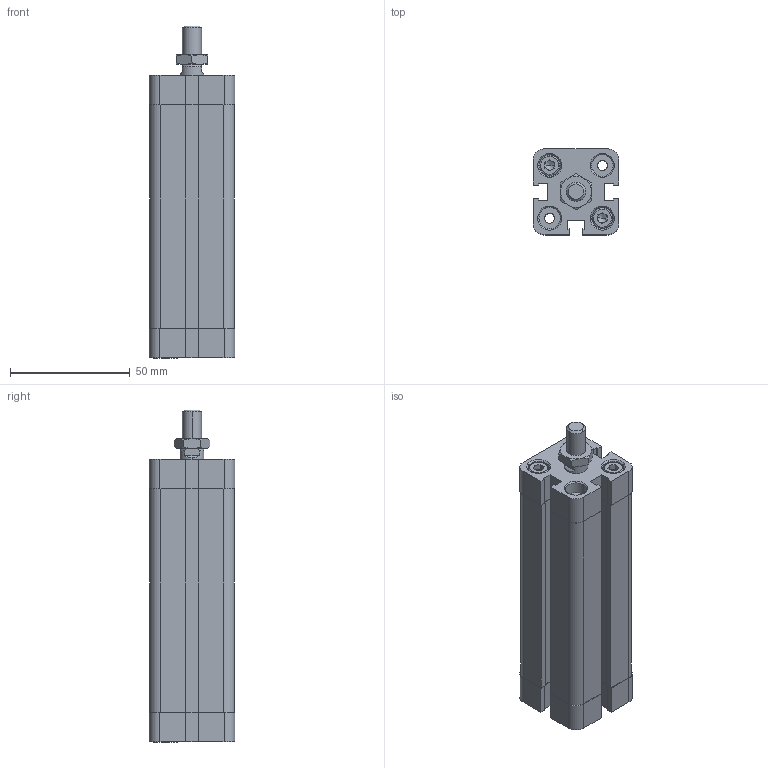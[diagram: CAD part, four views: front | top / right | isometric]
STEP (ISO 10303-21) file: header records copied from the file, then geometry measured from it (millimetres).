
FILE_DESCRIPTION (( 'STEP AP214' ), '1' );
FILE_NAME ('WACC-020-0080-ML (3D).STEP', '2020-03-13T13:56:37', ( '' ), ( '' ), 'SwSTEP 2.0', 'SolidWorks 2016', '' );
FILE_SCHEMA (( 'AUTOMOTIVE_DESIGN' ));
Length unit declared in the file: millimetre
Products named in the file (4): Group1^WACC-020-0080-ML (3D); Group3^WACC-020-0080-ML (3D); WACC-020-0080-ML (3D); Group2^WACC-020-0080-ML (3D)
Assembly tree (3 placements, depth 2):
  WACC-020-0080-ML (3D)
    Group1^WACC-020-0080-ML (3D)
    Group2^WACC-020-0080-ML (3D)
    Group3^WACC-020-0080-ML (3D)
Bounding box: 35.7 x 35.7 x 138.5 mm (x, y, z)
Volume: 102839.7 mm3; surface area: 46048.9 mm2
Topology: 9 solids, 9 shells, 545 faces, 1372 edges, 890 vertices
Faces by surface type: plane 321, bspline 104, cylinder 74, cone 46
Entity records: 22836 total; most frequent: CARTESIAN_POINT 9075, ORIENTED_EDGE 2736, DIRECTION 2242, EDGE_CURVE 1368, LINE 928, VECTOR 928, VERTEX_POINT 890, AXIS2_PLACEMENT_3D 657
